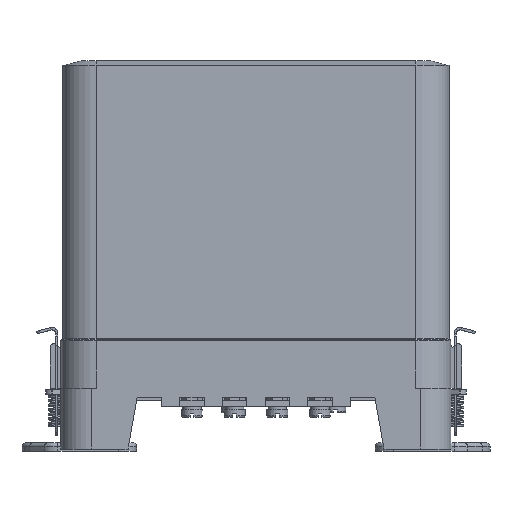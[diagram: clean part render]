
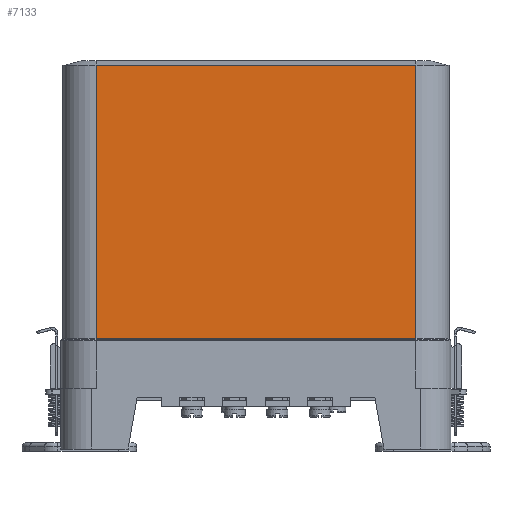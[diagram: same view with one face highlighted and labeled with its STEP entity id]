
A CAD part, left-side view. The second image highlights one B-rep face of the part: STEP entity #7133.
In plain terms, the highlighted planar face has unit normal (-1, 0, 0).
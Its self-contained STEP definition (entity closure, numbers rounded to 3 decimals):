
#7133=ADVANCED_FACE('',(#17856),#17858,.T.);
#17856=FACE_BOUND('',#17857,.T.);
#17857=EDGE_LOOP('',(#33733,#33734,#33735,#33736));
#17858=PLANE('',#17859);
#17859=AXIS2_PLACEMENT_3D('',#17860,#17861,#17862);
#17860=CARTESIAN_POINT('',(-46.5,52.5,20.));
#17861=DIRECTION('',(-1.,0.,0.));
#17862=DIRECTION('',(0.,-1.,0.));
#33733=ORIENTED_EDGE('',*,*,#38372,.T.);
#33734=ORIENTED_EDGE('',*,*,#38373,.F.);
#33735=ORIENTED_EDGE('',*,*,#37772,.F.);
#33736=ORIENTED_EDGE('',*,*,#38374,.T.);
#37772=EDGE_CURVE('',#42307,#42308,#42309,.F.);
#38372=EDGE_CURVE('',#43312,#43313,#43314,.F.);
#38373=EDGE_CURVE('',#42308,#43313,#43315,.T.);
#38374=EDGE_CURVE('',#42307,#43312,#43316,.T.);
#42307=VERTEX_POINT('',#51802);
#42308=VERTEX_POINT('',#51803);
#42309=LINE('',#51804,#51805);
#43312=VERTEX_POINT('',#54293);
#43313=VERTEX_POINT('',#54294);
#43314=LINE('',#54295,#54296);
#43315=LINE('',#54298,#54299);
#43316=LINE('',#54301,#54302);
#51802=CARTESIAN_POINT('',(-46.5,-52.5,36.366));
#51803=CARTESIAN_POINT('',(-46.5,52.5,36.366));
#51804=CARTESIAN_POINT('',(-46.5,52.5,36.366));
#51805=VECTOR('',#51806,1.);
#51806=DIRECTION('',(0.,-1.,0.));
#54293=CARTESIAN_POINT('',(-46.5,-52.5,126.));
#54294=CARTESIAN_POINT('',(-46.5,52.5,126.));
#54295=CARTESIAN_POINT('',(-46.5,52.5,126.));
#54296=VECTOR('',#54297,1.);
#54297=DIRECTION('',(0.,-1.,0.));
#54298=CARTESIAN_POINT('',(-46.5,52.5,36.366));
#54299=VECTOR('',#54300,1.);
#54300=DIRECTION('',(0.,0.,1.));
#54301=CARTESIAN_POINT('',(-46.5,-52.5,36.366));
#54302=VECTOR('',#54303,1.);
#54303=DIRECTION('',(0.,0.,1.));
